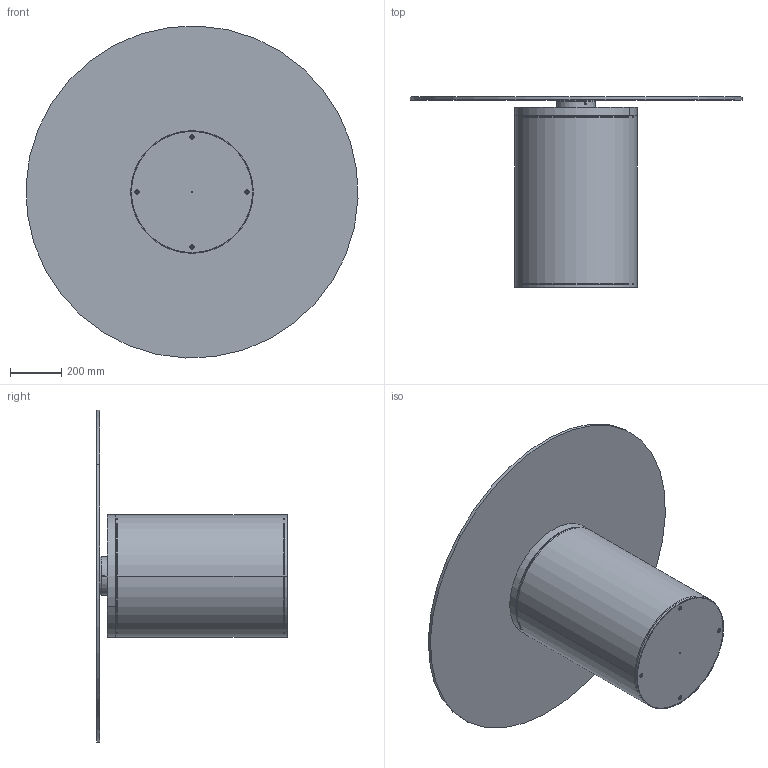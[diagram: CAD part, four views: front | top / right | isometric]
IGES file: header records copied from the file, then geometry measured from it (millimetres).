
Start section: SolidWorks IGES file using analytic representation for surfaces
Global section: file name: Y:\eforma\TECNICO\SOLIDWORKS\E-FORMA\1-TAVOLI\CILINDRO\02 parts\CI05G.IGS; native system: SolidWorks 2022; preprocessor: SolidWorks 2022; author: eforma.tech; date: 240808.084929; units: millimetre
Bounding box: 1299.03 x 744 x 1299.03 mm (x, y, z)
Volume: 27323696.1 mm3; surface area: 5974443.5 mm2
Topology: 26 solids, 26 shells, 699 faces, 1576 edges, 908 vertices
Faces by surface type: revolution 408, plane 282, bspline 9
